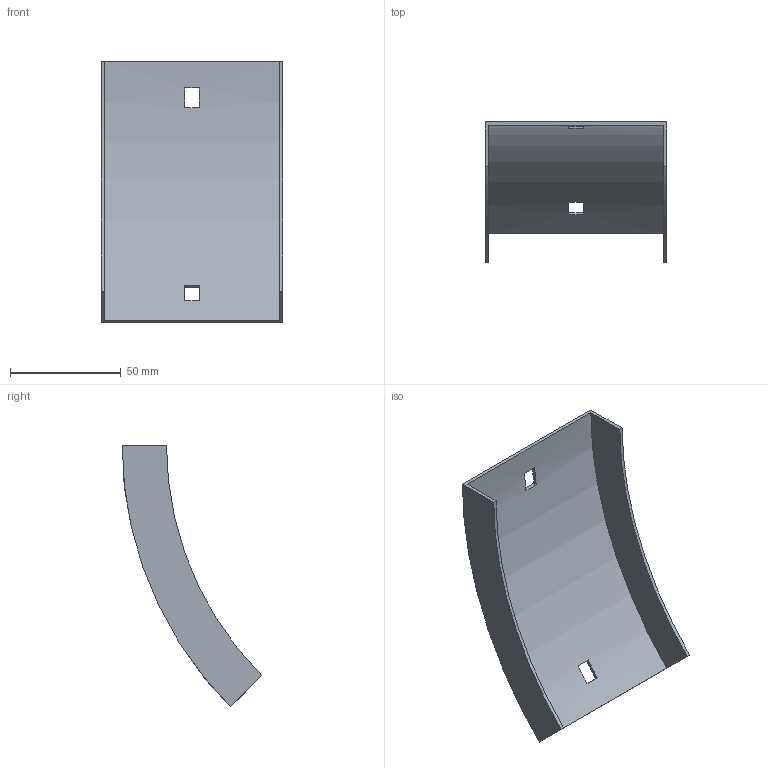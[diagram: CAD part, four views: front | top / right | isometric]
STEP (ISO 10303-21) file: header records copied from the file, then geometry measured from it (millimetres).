
FILE_DESCRIPTION (( 'STEP AP214' ), '1' );
FILE_NAME ('34N1H075.step', '2025-02-21T09:15:16', ( '' ), ( '' ), 'SwSTEP 2.0', 'SolidWorks 2023', '' );
FILE_SCHEMA (( 'AUTOMOTIVE_DESIGN' ));
Length unit declared in the file: millimetre
Products named in the file (1): 34N1H075
Bounding box: 82 x 63.06 x 118.09 mm (x, y, z)
Volume: 22694.9 mm3; surface area: 31058.5 mm2
Topology: 1 solids, 1 shells, 18 faces, 48 edges, 32 vertices
Faces by surface type: plane 14, cylinder 4
Entity records: 599 total; most frequent: DIRECTION 102, CARTESIAN_POINT 99, ORIENTED_EDGE 96, EDGE_CURVE 48, AXIS2_PLACEMENT_3D 35, VERTEX_POINT 32, LINE 32, VECTOR 32
